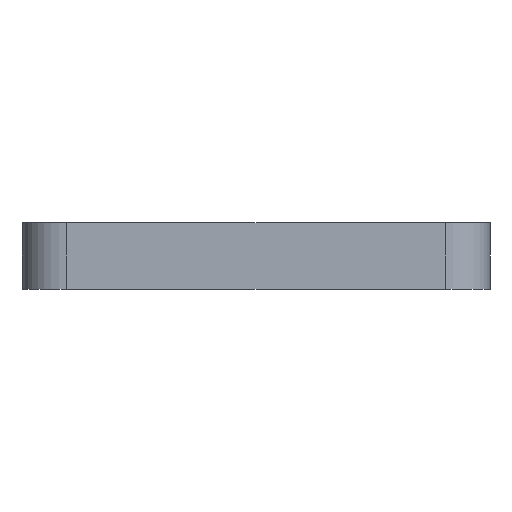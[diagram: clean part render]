
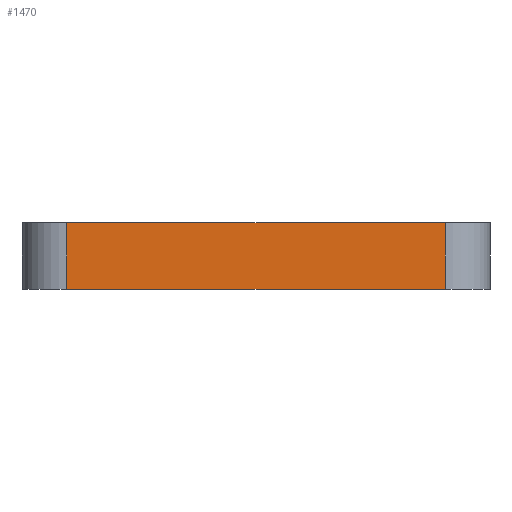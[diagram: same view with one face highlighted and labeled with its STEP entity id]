
A CAD part, front view. The second image highlights one B-rep face of the part: STEP entity #1470.
In plain terms, the highlighted planar face has unit normal (0, -1, 0).
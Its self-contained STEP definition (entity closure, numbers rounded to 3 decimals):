
#44 = CYLINDRICAL_SURFACE('',#45,4.);
#45 = AXIS2_PLACEMENT_3D('',#46,#47,#48);
#46 = CARTESIAN_POINT('',(-17.,-80.,0.));
#47 = DIRECTION('',(0.,0.,-1.));
#48 = DIRECTION('',(-1.,0.,0.));
#72 = PLANE('',#73);
#73 = AXIS2_PLACEMENT_3D('',#74,#75,#76);
#74 = CARTESIAN_POINT('',(0.,0.,6.));
#75 = DIRECTION('',(0.,0.,1.));
#76 = DIRECTION('',(1.,0.,0.));
#126 = PLANE('',#127);
#127 = AXIS2_PLACEMENT_3D('',#128,#129,#130);
#128 = CARTESIAN_POINT('',(0.,0.,0.));
#129 = DIRECTION('',(0.,0.,1.));
#130 = DIRECTION('',(1.,0.,0.));
#141 = EDGE_CURVE('',#142,#144,#146,.T.);
#142 = VERTEX_POINT('',#143);
#143 = CARTESIAN_POINT('',(-17.,-84.,0.));
#144 = VERTEX_POINT('',#145);
#145 = CARTESIAN_POINT('',(-17.,-84.,6.));
#146 = SURFACE_CURVE('',#147,(#151,#158),.PCURVE_S1.);
#147 = LINE('',#148,#149);
#148 = CARTESIAN_POINT('',(-17.,-84.,0.));
#149 = VECTOR('',#150,1.);
#150 = DIRECTION('',(0.,0.,1.));
#151 = PCURVE('',#44,#152);
#152 = DEFINITIONAL_REPRESENTATION('',(#153),#157);
#153 = LINE('',#154,#155);
#154 = CARTESIAN_POINT('',(4.712,0.));
#155 = VECTOR('',#156,1.);
#156 = DIRECTION('',(0.,-1.));
#157 = ( GEOMETRIC_REPRESENTATION_CONTEXT(2) 
PARAMETRIC_REPRESENTATION_CONTEXT() REPRESENTATION_CONTEXT('2D SPACE',''
  ) );
#158 = PCURVE('',#159,#164);
#159 = PLANE('',#160);
#160 = AXIS2_PLACEMENT_3D('',#161,#162,#163);
#161 = CARTESIAN_POINT('',(-17.,-84.,0.));
#162 = DIRECTION('',(0.,1.,0.));
#163 = DIRECTION('',(1.,0.,0.));
#164 = DEFINITIONAL_REPRESENTATION('',(#165),#169);
#165 = LINE('',#166,#167);
#166 = CARTESIAN_POINT('',(0.,0.));
#167 = VECTOR('',#168,1.);
#168 = DIRECTION('',(0.,-1.));
#169 = ( GEOMETRIC_REPRESENTATION_CONTEXT(2) 
PARAMETRIC_REPRESENTATION_CONTEXT() REPRESENTATION_CONTEXT('2D SPACE',''
  ) );
#315 = EDGE_CURVE('',#142,#316,#318,.T.);
#316 = VERTEX_POINT('',#317);
#317 = CARTESIAN_POINT('',(17.,-84.,0.));
#318 = SURFACE_CURVE('',#319,(#323,#330),.PCURVE_S1.);
#319 = LINE('',#320,#321);
#320 = CARTESIAN_POINT('',(0.,-84.,0.));
#321 = VECTOR('',#322,1.);
#322 = DIRECTION('',(1.,0.,0.));
#323 = PCURVE('',#126,#324);
#324 = DEFINITIONAL_REPRESENTATION('',(#325),#329);
#325 = LINE('',#326,#327);
#326 = CARTESIAN_POINT('',(0.,-84.));
#327 = VECTOR('',#328,1.);
#328 = DIRECTION('',(1.,0.));
#329 = ( GEOMETRIC_REPRESENTATION_CONTEXT(2) 
PARAMETRIC_REPRESENTATION_CONTEXT() REPRESENTATION_CONTEXT('2D SPACE',''
  ) );
#330 = PCURVE('',#159,#331);
#331 = DEFINITIONAL_REPRESENTATION('',(#332),#336);
#332 = LINE('',#333,#334);
#333 = CARTESIAN_POINT('',(17.,0.));
#334 = VECTOR('',#335,1.);
#335 = DIRECTION('',(1.,0.));
#336 = ( GEOMETRIC_REPRESENTATION_CONTEXT(2) 
PARAMETRIC_REPRESENTATION_CONTEXT() REPRESENTATION_CONTEXT('2D SPACE',''
  ) );
#359 = CYLINDRICAL_SURFACE('',#360,4.);
#360 = AXIS2_PLACEMENT_3D('',#361,#362,#363);
#361 = CARTESIAN_POINT('',(17.,-80.,0.));
#362 = DIRECTION('',(0.,0.,-1.));
#363 = DIRECTION('',(-1.,0.,0.));
#459 = EDGE_CURVE('',#144,#460,#462,.T.);
#460 = VERTEX_POINT('',#461);
#461 = CARTESIAN_POINT('',(17.,-84.,6.));
#462 = SURFACE_CURVE('',#463,(#467,#474),.PCURVE_S1.);
#463 = LINE('',#464,#465);
#464 = CARTESIAN_POINT('',(0.,-84.,6.));
#465 = VECTOR('',#466,1.);
#466 = DIRECTION('',(1.,0.,0.));
#467 = PCURVE('',#72,#468);
#468 = DEFINITIONAL_REPRESENTATION('',(#469),#473);
#469 = LINE('',#470,#471);
#470 = CARTESIAN_POINT('',(0.,-84.));
#471 = VECTOR('',#472,1.);
#472 = DIRECTION('',(1.,0.));
#473 = ( GEOMETRIC_REPRESENTATION_CONTEXT(2) 
PARAMETRIC_REPRESENTATION_CONTEXT() REPRESENTATION_CONTEXT('2D SPACE',''
  ) );
#474 = PCURVE('',#159,#475);
#475 = DEFINITIONAL_REPRESENTATION('',(#476),#480);
#476 = LINE('',#477,#478);
#477 = CARTESIAN_POINT('',(17.,-6.));
#478 = VECTOR('',#479,1.);
#479 = DIRECTION('',(1.,0.));
#480 = ( GEOMETRIC_REPRESENTATION_CONTEXT(2) 
PARAMETRIC_REPRESENTATION_CONTEXT() REPRESENTATION_CONTEXT('2D SPACE',''
  ) );
#1470 = ADVANCED_FACE('',(#1471),#159,.F.);
#1471 = FACE_BOUND('',#1472,.F.);
#1472 = EDGE_LOOP('',(#1473,#1474,#1475,#1496));
#1473 = ORIENTED_EDGE('',*,*,#141,.T.);
#1474 = ORIENTED_EDGE('',*,*,#459,.T.);
#1475 = ORIENTED_EDGE('',*,*,#1476,.F.);
#1476 = EDGE_CURVE('',#316,#460,#1477,.T.);
#1477 = SURFACE_CURVE('',#1478,(#1482,#1489),.PCURVE_S1.);
#1478 = LINE('',#1479,#1480);
#1479 = CARTESIAN_POINT('',(17.,-84.,0.));
#1480 = VECTOR('',#1481,1.);
#1481 = DIRECTION('',(0.,0.,1.));
#1482 = PCURVE('',#159,#1483);
#1483 = DEFINITIONAL_REPRESENTATION('',(#1484),#1488);
#1484 = LINE('',#1485,#1486);
#1485 = CARTESIAN_POINT('',(34.,0.));
#1486 = VECTOR('',#1487,1.);
#1487 = DIRECTION('',(0.,-1.));
#1488 = ( GEOMETRIC_REPRESENTATION_CONTEXT(2) 
PARAMETRIC_REPRESENTATION_CONTEXT() REPRESENTATION_CONTEXT('2D SPACE',''
  ) );
#1489 = PCURVE('',#359,#1490);
#1490 = DEFINITIONAL_REPRESENTATION('',(#1491),#1495);
#1491 = LINE('',#1492,#1493);
#1492 = CARTESIAN_POINT('',(4.712,0.));
#1493 = VECTOR('',#1494,1.);
#1494 = DIRECTION('',(0.,-1.));
#1495 = ( GEOMETRIC_REPRESENTATION_CONTEXT(2) 
PARAMETRIC_REPRESENTATION_CONTEXT() REPRESENTATION_CONTEXT('2D SPACE',''
  ) );
#1496 = ORIENTED_EDGE('',*,*,#315,.F.);
